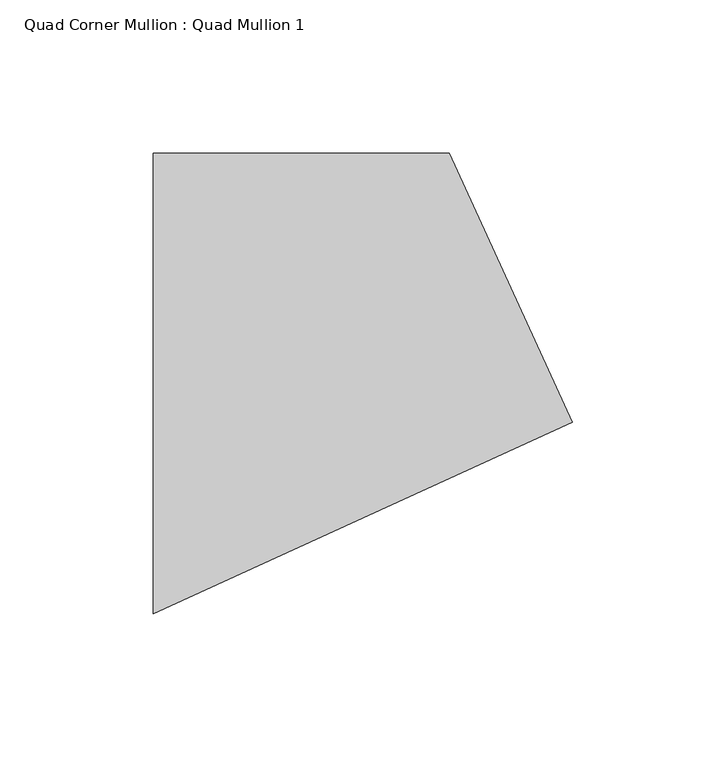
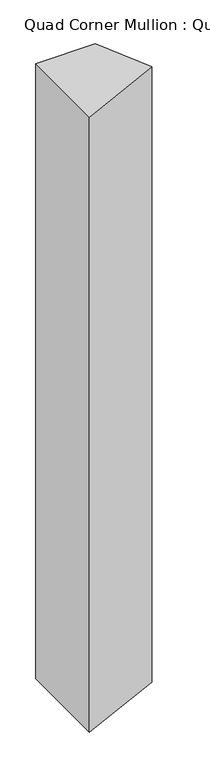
"""IFC4 building model written with IfcOpenShell, lengths in millimetres: member geometry, Quad Corner Mullion : Quad Mullion 1."""

from ifc_helpers import new_model, si_unit, frame, origin, place, context, project, spatial, polyline, outline, extrude, source, transform, mapped, element, save


def quad_corner_mullion_quad_mullion_1_33c9fb38(model_context):
    return source(origin(), model_context, "Body", "SweptSolid", [
        extrude(outline(polyline([(88.2376678, -12.5779745), (-48.1569462, -75.0), (-48.1569462, 75.0), (48.1569462, 75.0), (88.2376678, -12.5779745)])), frame((0.0, 0.0, -1050.0), z_axis=(0.0, 0.0, 1.0), x_axis=(1.0, 0.0, 0.0)), (0.0, 0.0, 1.0), 1050.0),
    ])


if __name__ == "__main__":
    model = new_model("IFC4")
    model_context = context("Model", 3, world=origin())
    ifc_project = project(units=[si_unit("LENGTHUNIT", "METRE", prefix="MILLI")], contexts=[model_context])
    site = spatial("IfcSite", under=ifc_project)
    building = spatial("IfcBuilding", under=site)
    placement = place(None, origin())
    quad_corner_mullion_quad_mullion_1_shape = quad_corner_mullion_quad_mullion_1_33c9fb38(model_context)
    element("IfcMember", 1, ObjectType="Quad Corner Mullion : Quad Mullion 1", at=placement, inside=building, context=model_context, shape_type="MappedRepresentation", body=[
        mapped(quad_corner_mullion_quad_mullion_1_shape, transform((0.0, 0.0, 0.0), x_axis=(1.0, 0.0, 0.0), y_axis=(0.0, 1.0, 0.0), z_axis=(0.0, 0.0, 1.0))),
    ])
    save(model, "model.ifc")
